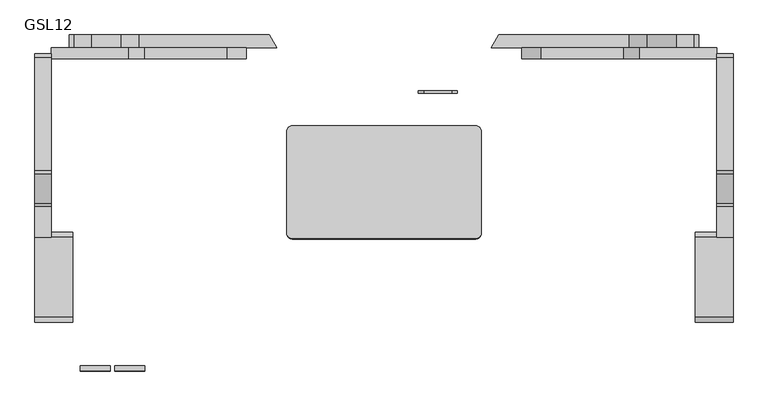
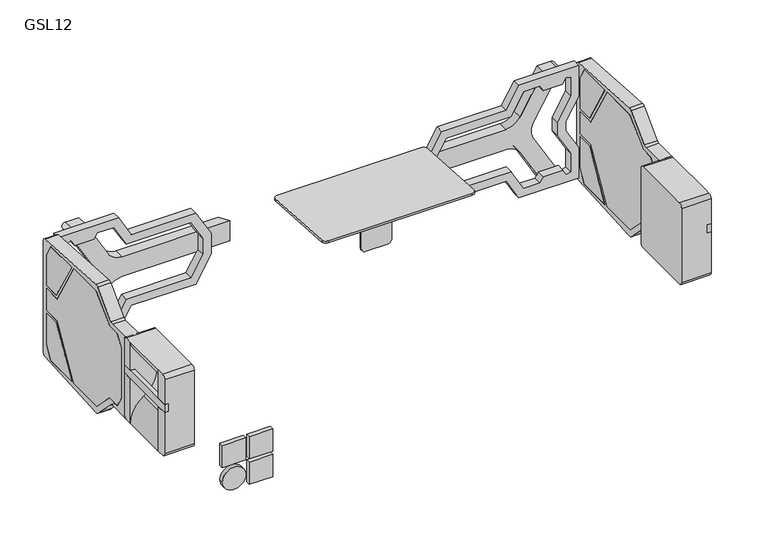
"""IFC4 building model written with IfcOpenShell, lengths in millimetres: proxy geometry, d&b SL-Series GSL : GSL12."""

from ifc_helpers import new_model, si_unit, point, frame, frame_2d, origin, place, context, project, spatial, polyline, circle_curve, trimmed, segment, composite_curve, outline, extrude, source, transform, mapped, element, save
from ifc_brep_helpers import plane_surface, cylinder_surface, revolved_surface, advanced_brep


def gsl12_12c20019(model_context):
    return source(origin(), model_context, "Body", "SolidModel", [
        advanced_brep(
        [(44.0940108, 264.1255973, -25.0), (286.1435935, 264.1255973, -25.0), (300.0, 240.1255973, -25.0), (44.0940108, 240.1255973, -25.0), (286.1435935, 264.1255973, 25.0), (44.0940108, 264.1255973, 25.0), (44.0940108, 240.1255973, 25.0), (300.0, 240.1255973, 25.0), (9.4529946, 264.1255973, -45.0), (-45.395281, 264.1255973, -140.0), (-77.5686988, 264.1255973, -140.0), (-84.5760006, 264.1255973, -127.8629971), (-22.3012702, 264.1255973, -20.0), (-22.3012702, 264.1255973, 20.0), (-84.5578633, 264.1255973, 127.8315824), (-77.5324241, 264.1255973, 140.0), (-45.395281, 264.1255973, 140.0), (9.4529946, 264.1255973, 45.0), (9.4529946, 240.1255973, 45.0), (-45.395281, 240.1255973, 140.0), (-77.5324241, 240.1255973, 140.0), (-84.5578633, 240.1255973, 127.8315824), (-22.3012702, 240.1255973, 20.0), (-22.3012702, 240.1255973, -20.0), (-84.5760006, 240.1255973, -127.8629971), (-77.5686988, 240.1255973, -140.0), (-45.395281, 240.1255973, -140.0), (9.4529946, 240.1255973, -45.0)],
        [
            (0, 1),
            (1, 2),
            (2, 3),
            (3, 0),
            (4, 5),
            (5, 6),
            (6, 7),
            (7, 4),
            (0, 8, circle_curve(frame((44.0940108, 264.1255973, -65.0), z_axis=(0.0, -1.0, 0.0), x_axis=(-1.0, 0.0, 0.0)), 40.0)),
            (8, 9),
            (9, 10),
            (10, 11, circle_curve(frame((-77.5686988, 264.1255973, -131.9086648), z_axis=(0.0, 1.0, 0.0), x_axis=(-1.0, 0.0, 0.0)), 8.0913352)),
            (11, 12),
            (12, 13, circle_curve(frame((-56.9422863, 264.1255973, 0.0), z_axis=(0.0, -1.0, 0.0), x_axis=(-1.0, 0.0, 0.0)), 40.0)),
            (13, 14),
            (14, 15, circle_curve(frame((-77.5324241, 264.1255973, 131.8877216), z_axis=(0.0, 1.0, 0.0), x_axis=(-1.0, 0.0, 0.0)), 8.1122784)),
            (15, 16),
            (16, 17),
            (17, 5, circle_curve(frame((44.0940108, 264.1255973, 65.0), z_axis=(0.0, -1.0, 0.0), x_axis=(-1.0, 0.0, 0.0)), 40.0)),
            (4, 1),
            (2, 7),
            (6, 18, circle_curve(frame((44.0940108, 240.1255973, 65.0), z_axis=(0.0, 1.0, 0.0), x_axis=(-1.0, 0.0, 0.0)), 40.0)),
            (18, 19),
            (19, 20),
            (20, 21, circle_curve(frame((-77.5324241, 240.1255973, 131.8877216), z_axis=(0.0, -1.0, 0.0), x_axis=(-1.0, 0.0, 0.0)), 8.1122784)),
            (21, 22),
            (22, 23, circle_curve(frame((-56.9422863, 240.1255973, 0.0), z_axis=(0.0, 1.0, 0.0), x_axis=(-1.0, 0.0, 0.0)), 40.0)),
            (23, 24),
            (24, 25, circle_curve(frame((-77.5686988, 240.1255973, -131.9086648), z_axis=(0.0, -1.0, 0.0), x_axis=(-1.0, 0.0, 0.0)), 8.0913352)),
            (25, 26),
            (26, 27),
            (27, 3, circle_curve(frame((44.0940108, 240.1255973, -65.0), z_axis=(0.0, 1.0, 0.0), x_axis=(-1.0, 0.0, 0.0)), 40.0)),
            (27, 8),
            (26, 9),
            (25, 10),
            (24, 11),
            (23, 12),
            (22, 13),
            (21, 14),
            (20, 15),
            (19, 16),
            (18, 17),
        ],
        [
            plane_surface(frame((44.0940108, 264.1255973, -25.0), z_axis=(0.0, 0.0, -1.0), x_axis=(-1.0, 0.0, 0.0))),
            plane_surface(frame((44.0940108, 264.1255973, 25.0), z_axis=(0.0, 0.0, 1.0), x_axis=(1.0, 0.0, 0.0))),
            plane_surface(frame((286.1435935, 264.1255973, -25.0), z_axis=(0.0, 1.0, 0.0), x_axis=(0.0, 0.0, 1.0))),
            plane_surface(frame((73.6539728, 240.1255973, -25.0), z_axis=(0.0, -1.0, 0.0), x_axis=(0.0, 0.0, 1.0))),
            plane_surface(frame((300.0, 240.1255973, -25.0), z_axis=(0.8660254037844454, 0.4999999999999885, 0.0), x_axis=(0.0, 0.0, 1.0))),
            revolved_surface(polyline([(4.0940107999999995, 264.1255973, -65.0), (4.0940107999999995, 240.1255973, -65.0)]), (44.0940108, 264.1255973, -65.0), (0.0, 1.0, 0.0)),
            plane_surface(frame((9.4529946, 240.1255973, -45.0), z_axis=(0.8660254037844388, 0.0, -0.4999999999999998), x_axis=(0.0, 1.0, 0.0))),
            plane_surface(frame((-45.395281, 240.1255973, -140.0), z_axis=(0.0, 0.0, -1.0), x_axis=(0.0, 1.0, 0.0))),
            cylinder_surface(frame((-77.5686988, 264.1255973, -131.9086648), z_axis=(0.0, -1.0, 0.0), x_axis=(-1.0, 0.0, 0.0)), 8.0913352),
            plane_surface(frame((-84.5760006, 240.1255973, -127.8629971), z_axis=(-0.8660254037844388, 0.0, 0.49999999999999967), x_axis=(0.0, 1.0, 0.0))),
            revolved_surface(polyline([(-96.9422863, 264.1255973, 0.0), (-96.9422863, 240.1255973, 0.0)]), (-56.9422863, 264.1255973, 0.0), (0.0, 1.0, 0.0)),
            plane_surface(frame((-22.3012702, 240.1255973, 20.0), z_axis=(-0.8660254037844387, 0.0, -0.5000000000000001), x_axis=(0.0, 1.0, 0.0))),
            cylinder_surface(frame((-77.5324241, 264.1255973, 131.8877216), z_axis=(0.0, -1.0, 0.0), x_axis=(-1.0, 0.0, 0.0)), 8.1122784),
            plane_surface(frame((-77.5324241, 240.1255973, 140.0), z_axis=(0.0, 0.0, 1.0), x_axis=(0.0, 1.0, 0.0))),
            plane_surface(frame((-45.395281, 240.1255973, 140.0), z_axis=(0.8660254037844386, 0.0, 0.5000000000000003), x_axis=(0.0, 1.0, 0.0))),
            revolved_surface(polyline([(4.0940107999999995, 264.1255973, 65.0), (4.0940107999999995, 240.1255973, 65.0)]), (44.0940108, 264.1255973, 65.0), (0.0, 1.0, 0.0)),
        ],
        [
            (0, [[1, 2, 3, 4]]),
            (1, [[5, 6, 7, 8]]),
            (2, [[9, 10, 11, 12, 13, 14, 15, 16, 17, 18, 19, -5, 20, -1]]),
            (3, [[21, -7, 22, 23, 24, 25, 26, 27, 28, 29, 30, 31, 32, -3]]),
            (4, [[-20, -8, -21, -2]]),
            (5, [[33, -9, -4, -32]]),
            (6, [[34, -10, -33, -31]]),
            (7, [[35, -11, -34, -30]]),
            (8, [[36, -12, -35, -29]]),
            (9, [[37, -13, -36, -28]]),
            (10, [[38, -14, -37, -27]]),
            (11, [[39, -15, -38, -26]]),
            (12, [[40, -16, -39, -25]]),
            (13, [[41, -17, -40, -24]]),
            (14, [[42, -18, -41, -23]]),
            (15, [[-6, -19, -42, -22]]),
        ],
    ),
        extrude(outline(polyline([(198.0003666, -143.5357656), (113.2697005, -143.5357656), (175.9151074, -35.0307379), (215.9011276, -35.0307379), (215.9011276, -112.5307379), (198.0003666, -143.5357656)])), frame((-150.0, 0.0, 0.0), z_axis=(1.0, 0.0, 0.0), x_axis=(0.0, 1.0, 0.0)), (0.0, 0.0, 1.0), 30.7),
        extrude(outline(polyline([(175.9151074, 35.0307379), (113.2697005, 143.5357656), (198.0003666, 143.5357656), (215.9011276, 112.5307379), (215.9011276, 35.0307379), (175.9151074, 35.0307379)])), frame((-150.0, 0.0, 0.0), z_axis=(1.0, 0.0, 0.0), x_axis=(0.0, 1.0, 0.0)), (0.0, 0.0, 1.0), 30.7),
        extrude(outline(polyline([(9.6575464, -143.5357656), (-43.6662298, -90.2119893), (-75.848711, -90.2119893), (-91.0215755, -63.931817), (-91.0215755, 63.931817), (-75.848711, 90.2119893), (-43.6662298, 90.2119893), (10.9415537, 144.8197728), (103.8681245, 144.8197728), (171.5849804, 27.5307379), (215.9011276, 27.5307379), (215.9011276, -27.5307379), (171.5849804, -27.5307379), (104.6094464, -143.5357656), (9.6575464, -143.5357656)])), frame((-150.0, 0.0, 0.0), z_axis=(1.0, 0.0, 0.0), x_axis=(0.0, 1.0, 0.0)), (0.0, 0.0, 1.0), 30.7),
        extrude(outline(composite_curve([segment(trimmed(circle_curve(frame_2d((-112.3744027, -93.0)), 9.0), [point((-112.3744027, -102.0))], [point((-103.3744027, -93.0))], True, "CARTESIAN"), True, "CONTINUOUS"), segment(polyline([(-103.3744027, -93.0), (-103.3744027, 93.0)]), True, "CONTINUOUS"), segment(trimmed(circle_curve(frame_2d((-112.3744027, 93.0)), 9.0), [point((-103.3744027, 93.0))], [point((-112.3744027, 102.0))], True, "CARTESIAN"), True, "CONTINUOUS"), segment(polyline([(-112.3744027, 102.0), (-56.0459756, 102.0)]), True, "CONTINUOUS"), segment(trimmed(circle_curve(frame_2d((-56.0459756, 112.0)), 10.0), [point((-56.0459756, 102.0))], [point((-48.9749078, 104.9289322))], True, "CARTESIAN"), True, "CONTINUOUS"), segment(polyline([(-48.9749078, 104.9289322), (4.726121, 158.6299609)]), True, "CONTINUOUS"), segment(trimmed(circle_curve(frame_2d((11.7971888, 151.5588931)), 10.0), [point((4.726121, 158.6299609))], [point((12.4512201, 161.5374823))], False, "CARTESIAN"), True, "CONTINUOUS"), segment(polyline([(12.4512201, 161.5374823), (221.9292014, 147.80757)]), True, "CONTINUOUS"), segment(trimmed(circle_curve(frame_2d((221.4255973, 140.1240563)), 7.7), [point((221.9292014, 147.80757))], [point((229.1255973, 140.1240563))], False, "CARTESIAN"), True, "CONTINUOUS"), segment(polyline([(229.1255973, 140.1240563), (229.1255973, -140.1240563)]), True, "CONTINUOUS"), segment(trimmed(circle_curve(frame_2d((221.4255973, -140.1240563)), 7.7), [point((229.1255973, -140.1240563))], [point((221.9292014, -147.80757))], False, "CARTESIAN"), True, "CONTINUOUS"), segment(polyline([(221.9292014, -147.80757), (13.3554681, -161.4782148)]), True, "CONTINUOUS"), segment(trimmed(circle_curve(frame_2d((12.5706305, -149.5039077)), 12.0), [point((13.3554681, -161.4782148))], [point((4.0853491, -157.9891891))], False, "CARTESIAN"), True, "CONTINUOUS"), segment(polyline([(4.0853491, -157.9891891), (-48.9749078, -104.9289322)]), True, "CONTINUOUS"), segment(trimmed(circle_curve(frame_2d((-56.0459756, -112.0)), 10.0), [point((-48.9749078, -104.9289322))], [point((-56.0459756, -102.0))], True, "CARTESIAN"), True, "CONTINUOUS"), segment(polyline([(-56.0459756, -102.0), (-112.3744027, -102.0)]), True, "CONTINUOUS")], self_intersect=False), holes=[polyline([(9.6575464, -143.5357656), (104.6094464, -143.5357656), (171.5849804, -27.5307379), (215.9011276, -27.5307379), (215.9011276, 27.5307379), (171.5849804, 27.5307379), (103.8681245, 144.8197728), (10.9415537, 144.8197728), (-43.6662298, 90.2119893), (-75.848711, 90.2119893), (-91.0215755, 63.931817), (-91.0215755, -63.931817), (-75.848711, -90.2119893), (-43.6662298, -90.2119893), (9.6575464, -143.5357656)]), polyline([(198.0003666, -143.5357656), (215.9011276, -112.5307379), (215.9011276, -35.0307379), (175.9151074, -35.0307379), (113.2697005, -143.5357656), (198.0003666, -143.5357656)]), polyline([(175.9151074, 35.0307379), (215.9011276, 35.0307379), (215.9011276, 112.5307379), (198.0003666, 143.5357656), (113.2697005, 143.5357656), (175.9151074, 35.0307379)])]), frame((-150.0, 0.0, 0.0), z_axis=(1.0, 0.0, 0.0), x_axis=(0.0, 1.0, 0.0)), (0.0, 0.0, 1.0), 30.7),
        advanced_brep(
        [(-80.0, -261.8744027, -102.0), (-80.0, -112.3744027, -102.0), (-80.0, -103.3744027, -93.0), (-80.0, -103.3744027, 93.0), (-80.0, -112.3744027, 102.0), (-80.0, -261.8744027, 102.0), (-80.0, -270.8744027, 93.0), (-80.0, -270.8744027, -93.0), (-150.0, -244.8744027, 102.0), (-150.0, -244.8744027, 30.6978366), (-150.0, -270.8744027, 30.6978366), (-150.0, -270.8744027, 93.0), (-150.0, -261.8744027, 102.0), (-150.0, -261.8744027, -102.0), (-150.0, -270.8744027, -93.0), (-150.0, -270.8744027, 9.853747), (-150.0, -244.8744027, 9.853747), (-150.0, -244.8744027, -102.0), (-150.0, -112.3744027, -102.0), (-150.0, -129.3744027, -102.0), (-150.0, -129.3744027, 9.853747), (-150.0, -103.3744027, 9.853747), (-150.0, -103.3744027, -93.0), (-150.0, -129.3744027, 102.0), (-150.0, -112.3744027, 102.0), (-150.0, -103.3744027, 93.0), (-150.0, -103.3744027, 30.6978366), (-150.0, -129.3744027, 30.6978366), (-140.0, -270.8744027, 30.6978366), (-140.0, -270.8744027, 9.853747), (-140.0, -244.8744027, 9.853747), (-133.0638712, -244.8744027, 78.097449), (-118.7971722, -244.8744027, -45.0307847), (-140.0, -244.8744027, 30.6978366), (-118.7971722, -129.3744027, -45.0307847), (-133.0638712, -129.3744027, 78.097449), (-140.0, -129.3744027, 30.6978366), (-140.0, -129.3744027, 9.853747), (-140.0, -103.3744027, 9.853747), (-140.0, -103.3744027, 30.6978366)],
        [
            (0, 1),
            (1, 2, circle_curve(frame((-80.0, -112.3744027, -93.0), z_axis=(1.0, 0.0, 0.0), x_axis=(0.0, 1.0, 0.0)), 9.0)),
            (2, 3),
            (3, 4, circle_curve(frame((-80.0, -112.3744027, 93.0), z_axis=(1.0, 0.0, 0.0), x_axis=(0.0, 1.0, 0.0)), 9.0)),
            (4, 5),
            (5, 6, circle_curve(frame((-80.0, -261.8744027, 93.0), z_axis=(1.0, 0.0, 0.0), x_axis=(0.0, -1.0, 0.0)), 9.0)),
            (6, 7),
            (7, 0, circle_curve(frame((-80.0, -261.8744027, -93.0), z_axis=(1.0, 0.0, 0.0), x_axis=(0.0, -1.0, 0.0)), 9.0)),
            (8, 9),
            (9, 10),
            (10, 11),
            (11, 12, circle_curve(frame((-150.0, -261.8744027, 93.0), z_axis=(-1.0, 0.0, 0.0), x_axis=(0.0, -1.0, 0.0)), 9.0)),
            (12, 8),
            (13, 14, circle_curve(frame((-150.0, -261.8744027, -93.0), z_axis=(-1.0, 0.0, 0.0), x_axis=(0.0, -1.0, 0.0)), 9.0)),
            (14, 15),
            (15, 16),
            (16, 17),
            (17, 13),
            (18, 19),
            (19, 20),
            (20, 21),
            (21, 22),
            (22, 18, circle_curve(frame((-150.0, -112.3744027, -93.0), z_axis=(-1.0, 0.0, 0.0), x_axis=(0.0, 1.0, 0.0)), 9.0)),
            (23, 24),
            (24, 25, circle_curve(frame((-150.0, -112.3744027, 93.0), z_axis=(-1.0, 0.0, 0.0), x_axis=(0.0, 1.0, 0.0)), 9.0)),
            (25, 26),
            (26, 27),
            (27, 23),
            (7, 14),
            (13, 0),
            (10, 28),
            (28, 29),
            (29, 15),
            (6, 11),
            (5, 12),
            (4, 24),
            (23, 8),
            (17, 19),
            (18, 1),
            (29, 30),
            (30, 16),
            (8, 31, circle_curve(frame((-124.6646824, -244.8744027, 102.0), z_axis=(0.0, -1.0, 0.0), x_axis=(1.0, 0.0, 0.0)), 25.3353176)),
            (31, 32, circle_curve(frame((-155.918024, -244.8744027, 13.0587215), z_axis=(0.0, 1.0, 0.0), x_axis=(1.0, 0.0, 0.0)), 68.9372786)),
            (32, 17, circle_curve(frame((-82.3922182, -244.8744027, -102.0), z_axis=(0.0, -1.0, 0.0), x_axis=(1.0, 0.0, 0.0)), 67.6077818)),
            (30, 33),
            (33, 9),
            (33, 28),
            (19, 34, circle_curve(frame((-82.3922182, -129.3744027, -102.0), z_axis=(0.0, 1.0, 0.0), x_axis=(1.0, 0.0, 0.0)), 67.6077818)),
            (34, 35, circle_curve(frame((-155.918024, -129.3744027, 13.0587215), z_axis=(0.0, -1.0, 0.0), x_axis=(1.0, 0.0, 0.0)), 68.9372786)),
            (35, 23, circle_curve(frame((-124.6646824, -129.3744027, 102.0), z_axis=(0.0, 1.0, 0.0), x_axis=(1.0, 0.0, 0.0)), 25.3353176)),
            (27, 36),
            (36, 37),
            (37, 20),
            (37, 38),
            (38, 21),
            (38, 39),
            (39, 26),
            (25, 3),
            (2, 22),
            (39, 36),
            (32, 34),
            (35, 31),
        ],
        [
            plane_surface(frame((-80.0, -270.8744027, -93.0), z_axis=(1.0, 0.0, 0.0), x_axis=(0.0, 0.0, 1.0))),
            plane_surface(frame((-150.0, -270.8744027, -93.0), z_axis=(-1.0, 0.0, 0.0), x_axis=(0.0, 0.0, -1.0))),
            cylinder_surface(frame((-150.0, -261.8744027, -93.0), z_axis=(1.0, 0.0, 0.0), x_axis=(0.0, -1.0, 0.0)), 9.0),
            plane_surface(frame((-80.0, -270.8744027, -93.0), z_axis=(0.0, -1.0, 0.0), x_axis=(-1.0, 0.0, 0.0))),
            cylinder_surface(frame((-150.0, -261.8744027, 93.0), z_axis=(1.0, 0.0, 0.0), x_axis=(0.0, -1.0, 0.0)), 9.0),
            plane_surface(frame((-80.0, -261.8744027, 102.0), z_axis=(0.0, 0.0, 1.0), x_axis=(-1.0, 0.0, 0.0))),
            plane_surface(frame((-80.0, -244.8744027, -102.0), z_axis=(0.0, 0.0, -1.0), x_axis=(-1.0, 0.0, 0.0))),
            plane_surface(frame((-80.0, -270.8744027, 9.853747), z_axis=(0.0, 0.0, 1.0), x_axis=(-1.0, 0.0, 0.0))),
            plane_surface(frame((-80.0, -244.8744027, 9.853747), z_axis=(0.0, 1.0, 0.0), x_axis=(-1.0, 0.0, 0.0))),
            plane_surface(frame((-80.0, -244.8744027, 30.6978366), z_axis=(0.0, 0.0, -1.0), x_axis=(-1.0, 0.0, 0.0))),
            plane_surface(frame((-80.0, -129.3744027, -102.0), z_axis=(0.0, -1.0, 0.0), x_axis=(-1.0, 0.0, 0.0))),
            plane_surface(frame((-80.0, -129.3744027, 9.853747), z_axis=(0.0, 0.0, 1.0), x_axis=(-1.0, 0.0, 0.0))),
            plane_surface(frame((-80.0, -103.3744027, 9.853747), z_axis=(0.0, 1.0, 0.0), x_axis=(-1.0, 0.0, 0.0))),
            cylinder_surface(frame((-150.0, -112.3744027, -93.0), z_axis=(1.0, 0.0, 0.0), x_axis=(0.0, 1.0, 0.0)), 9.0),
            cylinder_surface(frame((-150.0, -112.3744027, 93.0), z_axis=(1.0, 0.0, 0.0), x_axis=(0.0, 1.0, 0.0)), 9.0),
            plane_surface(frame((-80.0, -103.3744027, 30.6978366), z_axis=(0.0, 0.0, -1.0), x_axis=(-1.0, 0.0, 0.0))),
            plane_surface(frame((-140.0, -244.8744027, 30.6978366), z_axis=(-1.0, 0.0, 0.0), x_axis=(0.0, -1.0, 0.0))),
            cylinder_surface(frame((-82.3922182, -244.8744027, -102.0), z_axis=(0.0, 1.0, 0.0), x_axis=(1.0, 0.0, 0.0)), 67.6077818),
            cylinder_surface(frame((-124.6646824, -244.8744027, 102.0), z_axis=(0.0, 1.0, 0.0), x_axis=(1.0, 0.0, 0.0)), 25.3353176),
            revolved_surface(polyline([(-86.9807454, -244.8744027, 13.0587215), (-86.9807454, -129.3744027, 13.0587215)]), (-155.918024, -244.8744027, 13.0587215), (0.0, -1.0, 0.0)),
        ],
        [
            (0, [[1, 2, 3, 4, 5, 6, 7, 8]]),
            (1, [[9, 10, 11, 12, 13]]),
            (1, [[14, 15, 16, 17, 18]]),
            (1, [[19, 20, 21, 22, 23]]),
            (1, [[24, 25, 26, 27, 28]]),
            (2, [[29, -14, 30, -8]]),
            (3, [[31, 32, 33, -15, -29, -7, 34, -11]]),
            (4, [[35, -12, -34, -6]]),
            (5, [[36, -24, 37, -13, -35, -5]]),
            (6, [[-30, -18, 38, -19, 39, -1]]),
            (7, [[-33, 40, 41, -16]]),
            (8, [[42, 43, 44, -17, -41, 45, 46, -9]]),
            (9, [[-46, 47, -31, -10]]),
            (10, [[48, 49, 50, -28, 51, 52, 53, -20]]),
            (11, [[-53, 54, 55, -21]]),
            (12, [[-55, 56, 57, -26, 58, -3, 59, -22]]),
            (13, [[-39, -23, -59, -2]]),
            (14, [[-58, -25, -36, -4]]),
            (15, [[-57, 60, -51, -27]]),
            (16, [[-47, -45, -40, -32]]),
            (16, [[-60, -56, -54, -52]]),
            (17, [[-48, -38, -44, 61]]),
            (18, [[-50, 62, -42, -37]]),
            (19, [[-43, -62, -49, -61]]),
        ],
    ),
        extrude(outline(polyline([(-140.0, -270.8744027), (-150.0, -270.8744027), (-150.0, -103.3744027), (-140.0, -103.3744027), (-140.0, -270.8744027)])), frame((0.0, 0.0, 9.853747), z_axis=(0.0, 0.0, 1.0), x_axis=(1.0, 0.0, 0.0)), (0.0, 0.0, 1.0), 20.8440895),
        extrude(outline(polyline([(-89.0, 53.9089653), (-89.0, 206.9859169), (-25.4890642, 243.6539728), (25.4890642, 243.6539728), (89.0, 206.9859169), (89.0, 53.9089653), (141.5, 23.5980762), (141.5, -119.2957167), (66.9993094, -119.2957167), (11.7416698, -87.3927036), (-11.7416698, -87.3927036), (-66.9993094, -119.2957167), (-141.5, -119.2957167), (-141.5, 23.5980762), (-89.0, 53.9089653)]), holes=[polyline([(-68.9496895, 42.3329132), (-121.4496895, 12.022024), (-121.4496895, -26.2792347), (-108.1698631, -33.9463461), (-108.1698631, -81.0929271), (-121.8098942, -88.9680028), (-119.0560723, -99.2454061), (-72.3717739, -99.2454061), (-17.1141343, -67.342393), (17.1141343, -67.342393), (72.3717739, -99.2454061), (119.0560723, -99.2454061), (121.8098942, -88.9680028), (108.1698631, -81.0929271), (108.1698631, -33.9463461), (121.4496895, -26.2792347), (121.4496895, 12.022024), (68.9496895, 42.3329132), (68.9496895, 195.4098647), (20.0294593, 223.6539728), (-20.0294593, 223.6539728), (-68.9496895, 195.4098647), (-68.9496895, 42.3329132)])]), frame((0.0, 220.1255973, 0.0), z_axis=(0.0, 1.0, 0.0), x_axis=(0.0, 0.0, 1.0)), (0.0, 0.0, 1.0), 20.0),
        advanced_brep(
        [(955.9059892, 264.1255973, -25.0), (955.9059892, 240.1255973, -25.0), (700.0, 240.1255973, -25.0), (713.8564065, 264.1255973, -25.0), (713.8564065, 264.1255973, 25.0), (700.0, 240.1255973, 25.0), (955.9059892, 240.1255973, 25.0), (955.9059892, 264.1255973, 25.0), (990.5470054, 264.1255973, 45.0), (1045.395281, 264.1255973, 140.0), (1077.5324241, 264.1255973, 140.0), (1084.5578633, 264.1255973, 127.8315824), (1022.3012702, 264.1255973, 20.0), (1022.3012702, 264.1255973, -20.0), (1084.5760006, 264.1255973, -127.8629971), (1077.5686988, 264.1255973, -140.0), (1045.395281, 264.1255973, -140.0), (990.5470054, 264.1255973, -45.0), (990.5470054, 240.1255973, -45.0), (1045.395281, 240.1255973, -140.0), (1077.5686988, 240.1255973, -140.0), (1084.5760006, 240.1255973, -127.8629971), (1022.3012702, 240.1255973, -20.0), (1022.3012702, 240.1255973, 20.0), (1084.5578633, 240.1255973, 127.8315824), (1077.5324241, 240.1255973, 140.0), (1045.395281, 240.1255973, 140.0), (990.5470054, 240.1255973, 45.0)],
        [
            (0, 1),
            (1, 2),
            (2, 3),
            (3, 0),
            (4, 5),
            (5, 6),
            (6, 7),
            (7, 4),
            (3, 4),
            (7, 8, circle_curve(frame((955.9059892, 264.1255973, 65.0), z_axis=(0.0, -1.0, 0.0), x_axis=(1.0, 0.0, 0.0)), 40.0)),
            (8, 9),
            (9, 10),
            (10, 11, circle_curve(frame((1077.5324241, 264.1255973, 131.8877216), z_axis=(0.0, 1.0, 0.0), x_axis=(1.0, 0.0, 0.0)), 8.1122784)),
            (11, 12),
            (12, 13, circle_curve(frame((1056.9422863, 264.1255973, 0.0), z_axis=(0.0, -1.0, 0.0), x_axis=(1.0, 0.0, 0.0)), 40.0)),
            (13, 14),
            (14, 15, circle_curve(frame((1077.5686988, 264.1255973, -131.9086648), z_axis=(0.0, 1.0, 0.0), x_axis=(1.0, 0.0, 0.0)), 8.0913352)),
            (15, 16),
            (16, 17),
            (17, 0, circle_curve(frame((955.9059892, 264.1255973, -65.0), z_axis=(0.0, -1.0, 0.0), x_axis=(1.0, 0.0, 0.0)), 40.0)),
            (1, 18, circle_curve(frame((955.9059892, 240.1255973, -65.0), z_axis=(0.0, 1.0, 0.0), x_axis=(1.0, 0.0, 0.0)), 40.0)),
            (18, 19),
            (19, 20),
            (20, 21, circle_curve(frame((1077.5686988, 240.1255973, -131.9086648), z_axis=(0.0, -1.0, 0.0), x_axis=(1.0, 0.0, 0.0)), 8.0913352)),
            (21, 22),
            (22, 23, circle_curve(frame((1056.9422863, 240.1255973, 0.0), z_axis=(0.0, 1.0, 0.0), x_axis=(1.0, 0.0, 0.0)), 40.0)),
            (23, 24),
            (24, 25, circle_curve(frame((1077.5324241, 240.1255973, 131.8877216), z_axis=(0.0, -1.0, 0.0), x_axis=(1.0, 0.0, 0.0)), 8.1122784)),
            (25, 26),
            (26, 27),
            (27, 6, circle_curve(frame((955.9059892, 240.1255973, 65.0), z_axis=(0.0, 1.0, 0.0), x_axis=(1.0, 0.0, 0.0)), 40.0)),
            (5, 2),
            (17, 18),
            (16, 19),
            (15, 20),
            (14, 21),
            (13, 22),
            (12, 23),
            (11, 24),
            (10, 25),
            (9, 26),
            (8, 27),
        ],
        [
            plane_surface(frame((955.9059892, 264.1255973, -25.0), z_axis=(0.0, 0.0, -1.0), x_axis=(1.0, 0.0, 0.0))),
            plane_surface(frame((955.9059892, 264.1255973, 25.0), z_axis=(0.0, 0.0, 1.0), x_axis=(-1.0, 0.0, 0.0))),
            plane_surface(frame((713.8564065, 264.1255973, -25.0), z_axis=(0.0, 1.0, 0.0), x_axis=(0.0, 0.0, 1.0))),
            plane_surface(frame((926.3460272, 240.1255973, -25.0), z_axis=(0.0, -1.0, 0.0), x_axis=(0.0, 0.0, 1.0))),
            plane_surface(frame((700.0, 240.1255973, -25.0), z_axis=(-0.8660254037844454, 0.4999999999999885, 0.0), x_axis=(0.0, 0.0, 1.0))),
            revolved_surface(polyline([(995.9059892, 264.1255973, -65.0), (995.9059892, 240.1255973, -65.0)]), (955.9059892, 264.1255973, -65.0), (0.0, 1.0, 0.0)),
            plane_surface(frame((990.5470054, 240.1255973, -45.0), z_axis=(-0.8660254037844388, 0.0, -0.4999999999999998), x_axis=(0.0, 1.0, 0.0))),
            plane_surface(frame((1045.395281, 240.1255973, -140.0), z_axis=(0.0, 0.0, -1.0), x_axis=(0.0, 1.0, 0.0))),
            cylinder_surface(frame((1077.5686988, 264.1255973, -131.9086648), z_axis=(0.0, -1.0, 0.0), x_axis=(1.0, 0.0, 0.0)), 8.0913352),
            plane_surface(frame((1084.5760006, 240.1255973, -127.8629971), z_axis=(0.8660254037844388, 0.0, 0.49999999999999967), x_axis=(0.0, 1.0, 0.0))),
            revolved_surface(polyline([(1096.9422863, 264.1255973, 0.0), (1096.9422863, 240.1255973, 0.0)]), (1056.9422863, 264.1255973, 0.0), (0.0, 1.0, 0.0)),
            plane_surface(frame((1022.3012702, 240.1255973, 20.0), z_axis=(0.8660254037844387, 0.0, -0.5000000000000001), x_axis=(0.0, 1.0, 0.0))),
            cylinder_surface(frame((1077.5324241, 264.1255973, 131.8877216), z_axis=(0.0, -1.0, 0.0), x_axis=(1.0, 0.0, 0.0)), 8.1122784),
            plane_surface(frame((1077.5324241, 240.1255973, 140.0), z_axis=(0.0, 0.0, 1.0), x_axis=(0.0, 1.0, 0.0))),
            plane_surface(frame((1045.395281, 240.1255973, 140.0), z_axis=(-0.8660254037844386, 0.0, 0.5000000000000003), x_axis=(0.0, 1.0, 0.0))),
            revolved_surface(polyline([(995.9059892, 264.1255973, 65.0), (995.9059892, 240.1255973, 65.0)]), (955.9059892, 264.1255973, 65.0), (0.0, 1.0, 0.0)),
        ],
        [
            (0, [[1, 2, 3, 4]]),
            (1, [[5, 6, 7, 8]]),
            (2, [[-4, 9, -8, 10, 11, 12, 13, 14, 15, 16, 17, 18, 19, 20]]),
            (3, [[-2, 21, 22, 23, 24, 25, 26, 27, 28, 29, 30, 31, -6, 32]]),
            (4, [[-3, -32, -5, -9]]),
            (5, [[-21, -1, -20, 33]]),
            (6, [[-22, -33, -19, 34]]),
            (7, [[-23, -34, -18, 35]]),
            (8, [[-24, -35, -17, 36]]),
            (9, [[-25, -36, -16, 37]]),
            (10, [[-26, -37, -15, 38]]),
            (11, [[-27, -38, -14, 39]]),
            (12, [[-28, -39, -13, 40]]),
            (13, [[-29, -40, -12, 41]]),
            (14, [[-30, -41, -11, 42]]),
            (15, [[-31, -42, -10, -7]]),
        ],
    ),
        extrude(outline(polyline([(198.0003666, -143.5357656), (113.2697005, -143.5357656), (175.9151074, -35.0307379), (215.9011276, -35.0307379), (215.9011276, -112.5307379), (198.0003666, -143.5357656)])), frame((1119.3, 0.0, 0.0), z_axis=(1.0, 0.0, 0.0), x_axis=(0.0, 1.0, 0.0)), (0.0, 0.0, 1.0), 30.7),
        extrude(outline(polyline([(175.9151074, 35.0307379), (113.2697005, 143.5357656), (198.0003666, 143.5357656), (215.9011276, 112.5307379), (215.9011276, 35.0307379), (175.9151074, 35.0307379)])), frame((1119.3, 0.0, 0.0), z_axis=(1.0, 0.0, 0.0), x_axis=(0.0, 1.0, 0.0)), (0.0, 0.0, 1.0), 30.7),
        extrude(outline(polyline([(9.6575464, -143.5357656), (-43.6662298, -90.2119893), (-75.848711, -90.2119893), (-91.0215755, -63.931817), (-91.0215755, 63.931817), (-75.848711, 90.2119893), (-43.6662298, 90.2119893), (10.9415537, 144.8197728), (103.8681245, 144.8197728), (171.5849804, 27.5307379), (215.9011276, 27.5307379), (215.9011276, -27.5307379), (171.5849804, -27.5307379), (104.6094464, -143.5357656), (9.6575464, -143.5357656)])), frame((1119.3, 0.0, 0.0), z_axis=(1.0, 0.0, 0.0), x_axis=(0.0, 1.0, 0.0)), (0.0, 0.0, 1.0), 30.7),
        extrude(outline(composite_curve([segment(trimmed(circle_curve(frame_2d((-112.3744027, -93.0)), 9.0), [point((-112.3744027, -102.0))], [point((-103.3744027, -93.0))], True, "CARTESIAN"), True, "CONTINUOUS"), segment(polyline([(-103.3744027, -93.0), (-103.3744027, 93.0)]), True, "CONTINUOUS"), segment(trimmed(circle_curve(frame_2d((-112.3744027, 93.0)), 9.0), [point((-103.3744027, 93.0))], [point((-112.3744027, 102.0))], True, "CARTESIAN"), True, "CONTINUOUS"), segment(polyline([(-112.3744027, 102.0), (-56.0459756, 102.0)]), True, "CONTINUOUS"), segment(trimmed(circle_curve(frame_2d((-56.0459756, 112.0)), 10.0), [point((-56.0459756, 102.0))], [point((-48.9749078, 104.9289322))], True, "CARTESIAN"), True, "CONTINUOUS"), segment(polyline([(-48.9749078, 104.9289322), (4.726121, 158.6299609)]), True, "CONTINUOUS"), segment(trimmed(circle_curve(frame_2d((11.7971888, 151.5588931)), 10.0), [point((4.726121, 158.6299609))], [point((12.4512201, 161.5374823))], False, "CARTESIAN"), True, "CONTINUOUS"), segment(polyline([(12.4512201, 161.5374823), (221.9292014, 147.80757)]), True, "CONTINUOUS"), segment(trimmed(circle_curve(frame_2d((221.4255973, 140.1240563)), 7.7), [point((221.9292014, 147.80757))], [point((229.1255973, 140.1240563))], False, "CARTESIAN"), True, "CONTINUOUS"), segment(polyline([(229.1255973, 140.1240563), (229.1255973, -140.1240563)]), True, "CONTINUOUS"), segment(trimmed(circle_curve(frame_2d((221.4255973, -140.1240563)), 7.7), [point((229.1255973, -140.1240563))], [point((221.9292014, -147.80757))], False, "CARTESIAN"), True, "CONTINUOUS"), segment(polyline([(221.9292014, -147.80757), (13.3554681, -161.4782148)]), True, "CONTINUOUS"), segment(trimmed(circle_curve(frame_2d((12.5706305, -149.5039077)), 12.0), [point((13.3554681, -161.4782148))], [point((4.0853491, -157.9891891))], False, "CARTESIAN"), True, "CONTINUOUS"), segment(polyline([(4.0853491, -157.9891891), (-48.9749078, -104.9289322)]), True, "CONTINUOUS"), segment(trimmed(circle_curve(frame_2d((-56.0459756, -112.0)), 10.0), [point((-48.9749078, -104.9289322))], [point((-56.0459756, -102.0))], True, "CARTESIAN"), True, "CONTINUOUS"), segment(polyline([(-56.0459756, -102.0), (-112.3744027, -102.0)]), True, "CONTINUOUS")], self_intersect=False), holes=[polyline([(9.6575464, -143.5357656), (104.6094464, -143.5357656), (171.5849804, -27.5307379), (215.9011276, -27.5307379), (215.9011276, 27.5307379), (171.5849804, 27.5307379), (103.8681245, 144.8197728), (10.9415537, 144.8197728), (-43.6662298, 90.2119893), (-75.848711, 90.2119893), (-91.0215755, 63.931817), (-91.0215755, -63.931817), (-75.848711, -90.2119893), (-43.6662298, -90.2119893), (9.6575464, -143.5357656)]), polyline([(198.0003666, -143.5357656), (215.9011276, -112.5307379), (215.9011276, -35.0307379), (175.9151074, -35.0307379), (113.2697005, -143.5357656), (198.0003666, -143.5357656)]), polyline([(175.9151074, 35.0307379), (215.9011276, 35.0307379), (215.9011276, 112.5307379), (198.0003666, 143.5357656), (113.2697005, 143.5357656), (175.9151074, 35.0307379)])]), frame((1119.3, 0.0, 0.0), z_axis=(1.0, 0.0, 0.0), x_axis=(0.0, 1.0, 0.0)), (0.0, 0.0, 1.0), 30.7),
        advanced_brep(
        [(1080.0, -261.8744027, -102.0), (1080.0, -270.8744027, -93.0), (1080.0, -270.8744027, 93.0), (1080.0, -261.8744027, 102.0), (1080.0, -112.3744027, 102.0), (1080.0, -103.3744027, 93.0), (1080.0, -103.3744027, -93.0), (1080.0, -112.3744027, -102.0), (1150.0, -244.8744027, 102.0), (1150.0, -261.8744027, 102.0), (1150.0, -270.8744027, 93.0), (1150.0, -270.8744027, 30.6978366), (1150.0, -244.8744027, 30.6978366), (1150.0, -261.8744027, -102.0), (1150.0, -244.8744027, -102.0), (1150.0, -244.8744027, 9.853747), (1150.0, -270.8744027, 9.853747), (1150.0, -270.8744027, -93.0), (1150.0, -112.3744027, -102.0), (1150.0, -103.3744027, -93.0), (1150.0, -103.3744027, 9.853747), (1150.0, -129.3744027, 9.853747), (1150.0, -129.3744027, -102.0), (1150.0, -129.3744027, 102.0), (1150.0, -129.3744027, 30.6978366), (1150.0, -103.3744027, 30.6978366), (1150.0, -103.3744027, 93.0), (1150.0, -112.3744027, 102.0), (1140.0, -270.8744027, 9.853747), (1140.0, -270.8744027, 30.6978366), (1140.0, -244.8744027, 9.853747), (1140.0, -244.8744027, 30.6978366), (1118.7971722, -244.8744027, -45.0307847), (1133.0638712, -244.8744027, 78.097449), (1140.0, -129.3744027, 9.853747), (1140.0, -129.3744027, 30.6978366), (1133.0638712, -129.3744027, 78.097449), (1118.7971722, -129.3744027, -45.0307847), (1140.0, -103.3744027, 9.853747), (1140.0, -103.3744027, 30.6978366)],
        [
            (0, 1, circle_curve(frame((1080.0, -261.8744027, -93.0), z_axis=(-1.0, 0.0, 0.0), x_axis=(0.0, -1.0, 0.0)), 9.0)),
            (1, 2),
            (2, 3, circle_curve(frame((1080.0, -261.8744027, 93.0), z_axis=(-1.0, 0.0, 0.0), x_axis=(0.0, -1.0, 0.0)), 9.0)),
            (3, 4),
            (4, 5, circle_curve(frame((1080.0, -112.3744027, 93.0), z_axis=(-1.0, 0.0, 0.0), x_axis=(0.0, 1.0, 0.0)), 9.0)),
            (5, 6),
            (6, 7, circle_curve(frame((1080.0, -112.3744027, -93.0), z_axis=(-1.0, 0.0, 0.0), x_axis=(0.0, 1.0, 0.0)), 9.0)),
            (7, 0),
            (8, 9),
            (9, 10, circle_curve(frame((1150.0, -261.8744027, 93.0), z_axis=(1.0, 0.0, 0.0), x_axis=(0.0, -1.0, 0.0)), 9.0)),
            (10, 11),
            (11, 12),
            (12, 8),
            (13, 14),
            (14, 15),
            (15, 16),
            (16, 17),
            (17, 13, circle_curve(frame((1150.0, -261.8744027, -93.0), z_axis=(1.0, 0.0, 0.0), x_axis=(0.0, -1.0, 0.0)), 9.0)),
            (18, 19, circle_curve(frame((1150.0, -112.3744027, -93.0), z_axis=(1.0, 0.0, 0.0), x_axis=(0.0, 1.0, 0.0)), 9.0)),
            (19, 20),
            (20, 21),
            (21, 22),
            (22, 18),
            (23, 24),
            (24, 25),
            (25, 26),
            (26, 27, circle_curve(frame((1150.0, -112.3744027, 93.0), z_axis=(1.0, 0.0, 0.0), x_axis=(0.0, 1.0, 0.0)), 9.0)),
            (27, 23),
            (0, 13),
            (17, 1),
            (10, 2),
            (16, 28),
            (28, 29),
            (29, 11),
            (9, 3),
            (8, 23),
            (27, 4),
            (7, 18),
            (22, 14),
            (15, 30),
            (30, 28),
            (12, 31),
            (31, 30),
            (14, 32, circle_curve(frame((1082.3922182, -244.8744027, -102.0), z_axis=(0.0, -1.0, 0.0), x_axis=(-1.0, 0.0, 0.0)), 67.6077818)),
            (32, 33, circle_curve(frame((1155.918024, -244.8744027, 13.0587215), z_axis=(0.0, 1.0, 0.0), x_axis=(-1.0, 0.0, 0.0)), 68.9372786)),
            (33, 8, circle_curve(frame((1124.6646824, -244.8744027, 102.0), z_axis=(0.0, -1.0, 0.0), x_axis=(-1.0, 0.0, 0.0)), 25.3353176)),
            (29, 31),
            (21, 34),
            (34, 35),
            (35, 24),
            (23, 36, circle_curve(frame((1124.6646824, -129.3744027, 102.0), z_axis=(0.0, 1.0, 0.0), x_axis=(-1.0, 0.0, 0.0)), 25.3353176)),
            (36, 37, circle_curve(frame((1155.918024, -129.3744027, 13.0587215), z_axis=(0.0, -1.0, 0.0), x_axis=(-1.0, 0.0, 0.0)), 68.9372786)),
            (37, 22, circle_curve(frame((1082.3922182, -129.3744027, -102.0), z_axis=(0.0, 1.0, 0.0), x_axis=(-1.0, 0.0, 0.0)), 67.6077818)),
            (20, 38),
            (38, 34),
            (19, 6),
            (5, 26),
            (25, 39),
            (39, 38),
            (35, 39),
            (37, 32),
            (33, 36),
        ],
        [
            plane_surface(frame((1080.0, -270.8744027, -93.0), z_axis=(-1.0, 0.0, 0.0), x_axis=(0.0, 0.0, 1.0))),
            plane_surface(frame((1150.0, -270.8744027, -93.0), z_axis=(1.0, 0.0, 0.0), x_axis=(0.0, 0.0, -1.0))),
            cylinder_surface(frame((1150.0, -261.8744027, -93.0), z_axis=(-1.0, 0.0, 0.0), x_axis=(0.0, -1.0, 0.0)), 9.0),
            plane_surface(frame((1080.0, -270.8744027, -93.0), z_axis=(0.0, -1.0, 0.0), x_axis=(1.0, 0.0, 0.0))),
            cylinder_surface(frame((1150.0, -261.8744027, 93.0), z_axis=(-1.0, 0.0, 0.0), x_axis=(0.0, -1.0, 0.0)), 9.0),
            plane_surface(frame((1080.0, -261.8744027, 102.0), z_axis=(0.0, 0.0, 1.0), x_axis=(1.0, 0.0, 0.0))),
            plane_surface(frame((1080.0, -244.8744027, -102.0), z_axis=(0.0, 0.0, -1.0), x_axis=(1.0, 0.0, 0.0))),
            plane_surface(frame((1080.0, -270.8744027, 9.853747), z_axis=(0.0, 0.0, 1.0), x_axis=(1.0, 0.0, 0.0))),
            plane_surface(frame((1080.0, -244.8744027, 9.853747), z_axis=(0.0, 1.0, 0.0), x_axis=(1.0, 0.0, 0.0))),
            plane_surface(frame((1080.0, -244.8744027, 30.6978366), z_axis=(0.0, 0.0, -1.0), x_axis=(1.0, 0.0, 0.0))),
            plane_surface(frame((1080.0, -129.3744027, -102.0), z_axis=(0.0, -1.0, 0.0), x_axis=(1.0, 0.0, 0.0))),
            plane_surface(frame((1080.0, -129.3744027, 9.853747), z_axis=(0.0, 0.0, 1.0), x_axis=(1.0, 0.0, 0.0))),
            plane_surface(frame((1080.0, -103.3744027, 9.853747), z_axis=(0.0, 1.0, 0.0), x_axis=(1.0, 0.0, 0.0))),
            cylinder_surface(frame((1150.0, -112.3744027, -93.0), z_axis=(-1.0, 0.0, 0.0), x_axis=(0.0, 1.0, 0.0)), 9.0),
            cylinder_surface(frame((1150.0, -112.3744027, 93.0), z_axis=(-1.0, 0.0, 0.0), x_axis=(0.0, 1.0, 0.0)), 9.0),
            plane_surface(frame((1080.0, -103.3744027, 30.6978366), z_axis=(0.0, 0.0, -1.0), x_axis=(1.0, 0.0, 0.0))),
            plane_surface(frame((1140.0, -244.8744027, 30.6978366), z_axis=(1.0, 0.0, 0.0), x_axis=(0.0, -1.0, 0.0))),
            cylinder_surface(frame((1082.3922182, -244.8744027, -102.0), z_axis=(0.0, 1.0, 0.0), x_axis=(-1.0, 0.0, 0.0)), 67.6077818),
            cylinder_surface(frame((1124.6646824, -244.8744027, 102.0), z_axis=(0.0, 1.0, 0.0), x_axis=(-1.0, 0.0, 0.0)), 25.3353176),
            revolved_surface(polyline([(1086.9807454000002, -244.8744027, 13.0587215), (1086.9807454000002, -129.3744027, 13.0587215)]), (1155.918024, -244.8744027, 13.0587215), (0.0, -1.0, 0.0)),
        ],
        [
            (0, [[1, 2, 3, 4, 5, 6, 7, 8]]),
            (1, [[9, 10, 11, 12, 13]]),
            (1, [[14, 15, 16, 17, 18]]),
            (1, [[19, 20, 21, 22, 23]]),
            (1, [[24, 25, 26, 27, 28]]),
            (2, [[-1, 29, -18, 30]]),
            (3, [[-11, 31, -2, -30, -17, 32, 33, 34]]),
            (4, [[-3, -31, -10, 35]]),
            (5, [[-4, -35, -9, 36, -28, 37]]),
            (6, [[-8, 38, -23, 39, -14, -29]]),
            (7, [[-16, 40, 41, -32]]),
            (8, [[-13, 42, 43, -40, -15, 44, 45, 46]]),
            (9, [[-12, -34, 47, -42]]),
            (10, [[-22, 48, 49, 50, -24, 51, 52, 53]]),
            (11, [[-21, 54, 55, -48]]),
            (12, [[-20, 56, -6, 57, -26, 58, 59, -54]]),
            (13, [[-7, -56, -19, -38]]),
            (14, [[-5, -37, -27, -57]]),
            (15, [[-25, -50, 60, -58]]),
            (16, [[-33, -41, -43, -47]]),
            (16, [[-49, -55, -59, -60]]),
            (17, [[61, -44, -39, -53]]),
            (18, [[-36, -46, 62, -51]]),
            (19, [[-61, -52, -62, -45]]),
        ],
    ),
        extrude(outline(polyline([(1140.0, -270.8744027), (1140.0, -103.3744027), (1150.0, -103.3744027), (1150.0, -270.8744027), (1140.0, -270.8744027)])), frame((0.0, 0.0, 9.853747), z_axis=(0.0, 0.0, 1.0), x_axis=(1.0, 0.0, 0.0)), (0.0, 0.0, 1.0), 20.8440895),
        extrude(outline(polyline([(-89.0, 946.0910347), (-141.5, 976.4019238), (-141.5, 1119.2957167), (-66.9993094, 1119.2957167), (-11.7416698, 1087.3927036), (11.7416698, 1087.3927036), (66.9993094, 1119.2957167), (141.5, 1119.2957167), (141.5, 976.4019238), (89.0, 946.0910347), (89.0, 793.0140831), (25.4890642, 756.3460272), (-25.4890642, 756.3460272), (-89.0, 793.0140831), (-89.0, 946.0910347)]), holes=[polyline([(-68.9496895, 957.6670868), (-68.9496895, 804.5901353), (-20.0294593, 776.3460272), (20.0294593, 776.3460272), (68.9496895, 804.5901353), (68.9496895, 957.6670868), (121.4496895, 987.977976), (121.4496895, 1026.2792347), (108.1698631, 1033.9463461), (108.1698631, 1081.0929271), (121.8098942, 1088.9680028), (119.0560723, 1099.2454061), (72.3717739, 1099.2454061), (17.1141343, 1067.342393), (-17.1141343, 1067.342393), (-72.3717739, 1099.2454061), (-119.0560723, 1099.2454061), (-121.8098942, 1088.9680028), (-108.1698631, 1081.0929271), (-108.1698631, 1033.9463461), (-121.4496895, 1026.2792347), (-121.4496895, 987.977976), (-68.9496895, 957.6670868)])]), frame((0.0, 220.1255973, 0.0), z_axis=(0.0, 1.0, 0.0), x_axis=(0.0, 0.0, 1.0)), (0.0, 0.0, 1.0), 20.0),
        extrude(outline(polyline([(-65.5, -351.6244027), (-9.5, -351.6244027), (-9.5, -361.6244027), (-65.5, -361.6244027), (-65.5, -351.6244027)])), frame((0.0, 0.0, -103.0), z_axis=(0.0, 0.0, 1.0), x_axis=(1.0, 0.0, 0.0)), (0.0, 0.0, 1.0), 56.0),
        extrude(outline(polyline([(-1.5, -351.6244027), (54.5, -351.6244027), (54.5, -361.6244027), (-1.5, -361.6244027), (-1.5, -351.6244027)])), frame((0.0, 0.0, -103.0), z_axis=(0.0, 0.0, 1.0), x_axis=(1.0, 0.0, 0.0)), (0.0, 0.0, 1.0), 56.0),
        extrude(outline(polyline([(-1.5, -351.6244027), (54.5, -351.6244027), (54.5, -361.6244027), (-1.5, -361.6244027), (-1.5, -351.6244027)])), frame((0.0, 0.0, -167.0), z_axis=(0.0, 0.0, 1.0), x_axis=(1.0, 0.0, 0.0)), (0.0, 0.0, 1.0), 56.0),
        extrude(outline(composite_curve([segment(trimmed(circle_curve(frame_2d((-139.0, -37.5)), 28.0), [point((-139.0, -65.5))], [point((-139.0, -9.5))], False, "CARTESIAN"), True, "CONTINUOUS"), segment(trimmed(circle_curve(frame_2d((-139.0, -37.5)), 28.0), [point((-139.0, -9.5))], [point((-139.0, -65.5))], False, "CARTESIAN"), True, "CONTINUOUS")], self_intersect=False)), frame((0.0, -361.6244027, 0.0), z_axis=(0.0, 1.0, 0.0), x_axis=(0.0, 0.0, 1.0)), (0.0, 0.0, 1.0), 10.0),
        extrude(outline(composite_curve([segment(polyline([(-86.0, 636.0), (86.0, 636.0)]), True, "CONTINUOUS"), segment(trimmed(circle_curve(frame_2d((86.0, 626.0)), 10.0), [point((86.0, 636.0))], [point((96.0, 626.0))], False, "CARTESIAN"), True, "CONTINUOUS"), segment(polyline([(96.0, 626.0), (96.0, 574.0)]), True, "CONTINUOUS"), segment(trimmed(circle_curve(frame_2d((86.0, 574.0)), 10.0), [point((96.0, 574.0))], [point((86.0, 564.0))], False, "CARTESIAN"), True, "CONTINUOUS"), segment(polyline([(86.0, 564.0), (-86.0, 564.0)]), True, "CONTINUOUS"), segment(trimmed(circle_curve(frame_2d((-86.0, 574.0)), 10.0), [point((-86.0, 564.0))], [point((-96.0, 574.0))], False, "CARTESIAN"), True, "CONTINUOUS"), segment(polyline([(-96.0, 574.0), (-96.0, 626.0)]), True, "CONTINUOUS"), segment(trimmed(circle_curve(frame_2d((-86.0, 626.0)), 10.0), [point((-96.0, 626.0))], [point((-86.0, 636.0))], False, "CARTESIAN"), True, "CONTINUOUS")], self_intersect=False)), frame((0.0, 155.1255973, 0.0), z_axis=(0.0, 1.0, 0.0), x_axis=(0.0, 0.0, 1.0)), (0.0, 0.0, 1.0), 5.0),
        extrude(outline(composite_curve([segment(polyline([(0.0, -20.0), (-342.0, -20.0)]), True, "CONTINUOUS"), segment(trimmed(circle_curve(frame_2d((-342.0, -10.0000001)), 10.0), [point((-342.0, -20.0))], [point((-352.0, -10.0000001))], False, "CARTESIAN"), True, "CONTINUOUS"), segment(polyline([(-352.0, -10.0000001), (-352.0, 181.0)]), True, "CONTINUOUS"), segment(trimmed(circle_curve(frame_2d((-342.0, 181.0)), 10.0), [point((-352.0, 181.0))], [point((-342.0, 191.0))], False, "CARTESIAN"), True, "CONTINUOUS"), segment(polyline([(-342.0, 191.0), (0.0, 191.0)]), True, "CONTINUOUS"), segment(trimmed(circle_curve(frame_2d((0.0, 181.0)), 10.0), [point((0.0, 191.0))], [point((10.0, 181.0))], False, "CARTESIAN"), True, "CONTINUOUS"), segment(polyline([(10.0, 181.0), (10.0, -10.0000001)]), True, "CONTINUOUS"), segment(trimmed(circle_curve(frame_2d((0.0, -10.0000001)), 10.0), [point((10.0, -10.0000001))], [point((0.0, -20.0))], False, "CARTESIAN"), True, "CONTINUOUS")], self_intersect=False)), frame((671.0, -95.9504336, 174.6570847), z_axis=(0.0, 0.06540312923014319, 0.9978589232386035), x_axis=(1.0, 0.0, 0.0)), (0.0, 0.0, 1.0), 5.0),
    ])


if __name__ == "__main__":
    model = new_model("IFC4")
    model_context = context("Model", 3, world=origin())
    ifc_project = project(units=[si_unit("LENGTHUNIT", "METRE", prefix="MILLI")], contexts=[model_context])
    site = spatial("IfcSite", under=ifc_project)
    building = spatial("IfcBuilding", under=site)
    placement = place(None, origin())
    gsl12_shape = gsl12_12c20019(model_context)
    element("IfcBuildingElementProxy", 1, Name="d&b SL-Series GSL : GSL12", ObjectType="d&b SL-Series GSL : GSL12", at=placement, inside=building, context=model_context, shape_type="MappedRepresentation", body=[
        mapped(gsl12_shape, transform((0.0, 0.0, 0.0), x_axis=(1.0, 0.0, 0.0), y_axis=(0.0, 1.0, 0.0), z_axis=(0.0, 0.0, 1.0))),
    ])
    save(model, "model.ifc")
